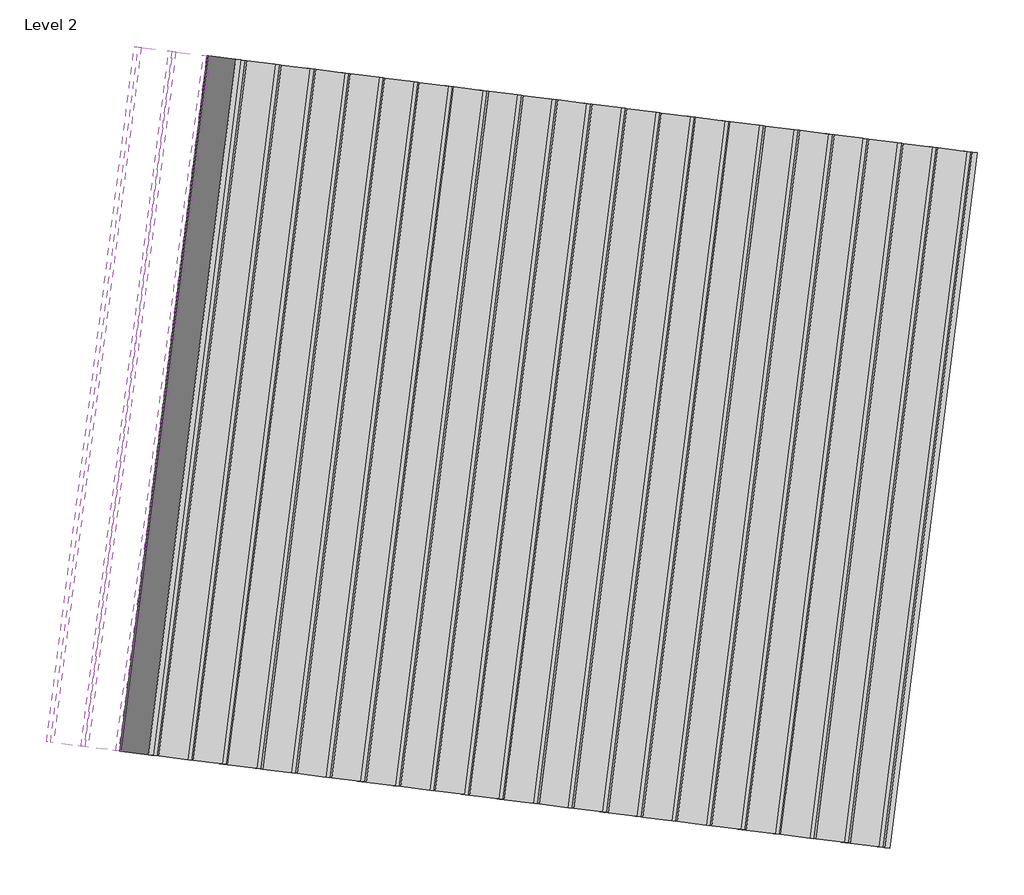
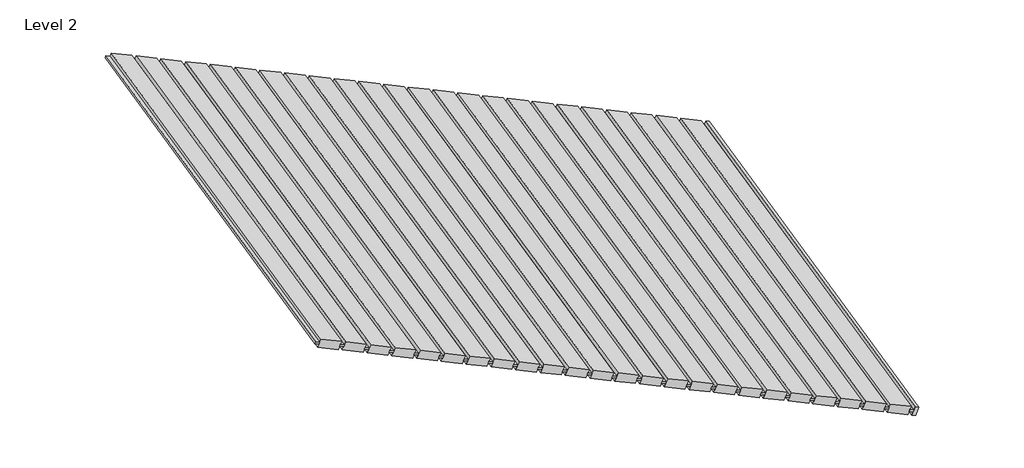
# One storey: 25 members, 25 plates.
"""IFC4 building model written with IfcOpenShell, lengths in millimetres."""

from ifc_helpers import new_model, si_unit, origin, place, context, project, spatial, transform, mapped, element, save
from components import montante_retangular_ed2668eb, painel_do_sistema_vazio_vazio_38e21958, painel_do_sistema_vazio_vazio_c075b244

model = new_model("IFC4")

# Units and contexts
model_context = context("Model", 3, world=origin())
ifc_project = project(units=[si_unit("LENGTHUNIT", "METRE", prefix="MILLI")], contexts=[model_context])

# Site, building, storey
site = spatial("IfcSite", under=ifc_project)
building = spatial("IfcBuilding", under=site)
storey = spatial("IfcBuildingStorey", under=building, Name="Level 2", Elevation=4000.0)

# Members
placement = place(None, origin())
montante_retangular_shape = montante_retangular_ed2668eb(model_context)
element("IfcMember", 1, ObjectType="Montante retangular : ripa", at=placement, inside=storey, context=model_context, shape_type="MappedRepresentation", body=[
    mapped(montante_retangular_shape, transform((41026.9580933, -12696.5400604, 5341.4546446), x_axis=(-0.9211792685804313, 0.11617969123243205, 0.3713906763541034), y_axis=(-0.36847170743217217, 0.04647187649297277, -0.9284766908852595), z_axis=(-0.1251293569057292, -0.9921404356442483, 0.0))),
])
element("IfcMember", 2, ObjectType="Montante retangular : ripa", at=placement, inside=storey, context=model_context, shape_type="MappedRepresentation", body=[
    mapped(montante_retangular_shape, transform((41579.6656545, -12766.2478751, 5118.6202388), x_axis=(-0.9211792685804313, 0.11617969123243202, 0.3713906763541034), y_axis=(-0.36847170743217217, 0.04647187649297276, -0.9284766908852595), z_axis=(-0.12512935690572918, -0.9921404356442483, 0.0))),
])
element("IfcMember", 3, ObjectType="Montante retangular : ripa", at=placement, inside=storey, context=model_context, shape_type="MappedRepresentation", body=[
    mapped(montante_retangular_shape, transform((42132.3732156, -12835.9556898, 4895.785833), x_axis=(-0.9211792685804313, 0.11617969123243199, 0.3713906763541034), y_axis=(-0.36847170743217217, 0.04647187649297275, -0.9284766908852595), z_axis=(-0.12512935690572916, -0.9921404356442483, 0.0))),
])
element("IfcMember", 4, ObjectType="Montante retangular : ripa", at=placement, inside=storey, context=model_context, shape_type="MappedRepresentation", body=[
    mapped(montante_retangular_shape, transform((42685.0807768, -12905.6635046, 4672.9514272), x_axis=(-0.9211792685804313, 0.11617969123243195, 0.3713906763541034), y_axis=(-0.36847170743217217, 0.04647187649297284, -0.9284766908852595), z_axis=(-0.12512935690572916, -0.9921404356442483, 0.0))),
])
element("IfcMember", 5, ObjectType="Montante retangular : ripa", at=placement, inside=storey, context=model_context, shape_type="MappedRepresentation", body=[
    mapped(montante_retangular_shape, transform((43237.7883379, -12975.3713193, 4450.1170214), x_axis=(-0.9211792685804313, 0.11617969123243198, 0.3713906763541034), y_axis=(-0.36847170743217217, 0.04647187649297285, -0.9284766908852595), z_axis=(-0.12512935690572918, -0.9921404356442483, 0.0))),
])
element("IfcMember", 6, ObjectType="Montante retangular : ripa", at=placement, inside=storey, context=model_context, shape_type="MappedRepresentation", body=[
    mapped(montante_retangular_shape, transform((43790.4958991, -13045.0791341, 4227.2826156), x_axis=(-0.9211792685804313, 0.11617969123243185, 0.3713906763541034), y_axis=(-0.3684717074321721, 0.046471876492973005, -0.9284766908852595), z_axis=(-0.12512935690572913, -0.9921404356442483, 0.0))),
])
element("IfcMember", 7, ObjectType="Montante retangular : ripa", at=placement, inside=storey, context=model_context, shape_type="MappedRepresentation", body=[
    mapped(montante_retangular_shape, transform((44343.2034602, -13114.7869488, 4004.4482098), x_axis=(-0.9211792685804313, 0.11617969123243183, 0.3713906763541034), y_axis=(-0.3684717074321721, 0.046471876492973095, -0.9284766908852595), z_axis=(-0.12512935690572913, -0.9921404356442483, 0.0))),
])
element("IfcMember", 8, ObjectType="Montante retangular : ripa", at=placement, inside=storey, context=model_context, shape_type="MappedRepresentation", body=[
    mapped(montante_retangular_shape, transform((44895.9110214, -13184.4947635, 3781.6138039), x_axis=(-0.9211792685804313, 0.11617969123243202, 0.3713906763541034), y_axis=(-0.36847170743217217, 0.04647187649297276, -0.9284766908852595), z_axis=(-0.12512935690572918, -0.9921404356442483, 0.0))),
])
element("IfcMember", 9, ObjectType="Montante retangular : ripa", at=placement, inside=storey, context=model_context, shape_type="MappedRepresentation", body=[
    mapped(montante_retangular_shape, transform((45448.6185825, -13254.2025783, 3558.7793981), x_axis=(-0.9211792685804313, 0.1161796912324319, 0.3713906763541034), y_axis=(-0.36847170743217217, 0.04647187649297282, -0.9284766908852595), z_axis=(-0.1251293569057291, -0.9921404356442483, 0.0))),
])
element("IfcMember", 10, ObjectType="Montante retangular : ripa", at=placement, inside=storey, context=model_context, shape_type="MappedRepresentation", body=[
    mapped(montante_retangular_shape, transform((46001.3261437, -13323.910393, 3335.9449923), x_axis=(-0.9211792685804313, 0.1161796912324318, 0.3713906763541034), y_axis=(-0.3684717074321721, 0.04647187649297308, -0.9284766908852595), z_axis=(-0.1251293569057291, -0.9921404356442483, 0.0))),
])
element("IfcMember", 11, ObjectType="Montante retangular : ripa", at=placement, inside=storey, context=model_context, shape_type="MappedRepresentation", body=[
    mapped(montante_retangular_shape, transform((46554.0337048, -13393.6182078, 3113.1105865), x_axis=(-0.9211792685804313, 0.11617969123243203, 0.3713906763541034), y_axis=(-0.36847170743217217, 0.04647187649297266, -0.9284766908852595), z_axis=(-0.12512935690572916, -0.9921404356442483, 0.0))),
])
element("IfcMember", 12, ObjectType="Montante retangular : ripa", at=placement, inside=storey, context=model_context, shape_type="MappedRepresentation", body=[
    mapped(montante_retangular_shape, transform((47106.741266, -13463.3260225, 2890.2761807), x_axis=(-0.9211792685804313, 0.11617969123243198, 0.3713906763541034), y_axis=(-0.36847170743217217, 0.04647187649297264, -0.9284766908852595), z_axis=(-0.1251293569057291, -0.9921404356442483, 0.0))),
])
element("IfcMember", 13, ObjectType="Montante retangular : ripa", at=placement, inside=storey, context=model_context, shape_type="MappedRepresentation", body=[
    mapped(montante_retangular_shape, transform((47383.0950465, -13498.1799299, 2778.8589778), x_axis=(-0.9211792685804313, 0.11617969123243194, 0.3713906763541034), y_axis=(-0.36847170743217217, 0.04647187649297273, -0.9284766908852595), z_axis=(-0.1251293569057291, -0.9921404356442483, 0.0))),
])
element("IfcMember", 14, ObjectType="Montante retangular : ripa", at=placement, inside=storey, context=model_context, shape_type="MappedRepresentation", body=[
    mapped(montante_retangular_shape, transform((46830.3874854, -13428.4721151, 3001.6933836), x_axis=(-0.9211792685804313, 0.11617969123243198, 0.3713906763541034), y_axis=(-0.36847170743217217, 0.04647187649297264, -0.9284766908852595), z_axis=(-0.1251293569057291, -0.9921404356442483, 0.0))),
])
element("IfcMember", 15, ObjectType="Montante retangular : ripa", at=placement, inside=storey, context=model_context, shape_type="MappedRepresentation", body=[
    mapped(montante_retangular_shape, transform((46277.6799242, -13358.7643004, 3224.5277894), x_axis=(-0.9211792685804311, 0.11617969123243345, 0.37139067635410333), y_axis=(-0.36847170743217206, 0.04647187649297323, -0.9284766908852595), z_axis=(-0.12512935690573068, -0.992140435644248, 0.0))),
])
element("IfcMember", 16, ObjectType="Montante retangular : ripa", at=placement, inside=storey, context=model_context, shape_type="MappedRepresentation", body=[
    mapped(montante_retangular_shape, transform((45724.9723631, -13289.0564857, 3447.3621952), x_axis=(-0.9211792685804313, 0.11617969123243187, 0.3713906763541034), y_axis=(-0.36847170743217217, 0.04647187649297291, -0.9284766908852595), z_axis=(-0.1251293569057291, -0.9921404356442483, 0.0))),
])
element("IfcMember", 17, ObjectType="Montante retangular : ripa", at=placement, inside=storey, context=model_context, shape_type="MappedRepresentation", body=[
    mapped(montante_retangular_shape, transform((45172.2648019, -13219.3486709, 3670.196601), x_axis=(-0.9211792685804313, 0.11617969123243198, 0.3713906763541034), y_axis=(-0.36847170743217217, 0.04647187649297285, -0.9284766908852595), z_axis=(-0.12512935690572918, -0.9921404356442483, 0.0))),
])
element("IfcMember", 18, ObjectType="Montante retangular : ripa", at=placement, inside=storey, context=model_context, shape_type="MappedRepresentation", body=[
    mapped(montante_retangular_shape, transform((44619.5572408, -13149.6408562, 3893.0310069), x_axis=(-0.9211792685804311, 0.11617969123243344, 0.37139067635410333), y_axis=(-0.36847170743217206, 0.046471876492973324, -0.9284766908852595), z_axis=(-0.1251293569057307, -0.992140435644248, 0.0))),
])
element("IfcMember", 19, ObjectType="Montante retangular : ripa", at=placement, inside=storey, context=model_context, shape_type="MappedRepresentation", body=[
    mapped(montante_retangular_shape, transform((44066.8496796, -13079.9330414, 4115.8654127), x_axis=(-0.9211792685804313, 0.11617969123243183, 0.3713906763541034), y_axis=(-0.3684717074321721, 0.046471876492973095, -0.9284766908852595), z_axis=(-0.12512935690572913, -0.9921404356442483, 0.0))),
])
element("IfcMember", 20, ObjectType="Montante retangular : ripa", at=placement, inside=storey, context=model_context, shape_type="MappedRepresentation", body=[
    mapped(montante_retangular_shape, transform((43514.1421185, -13010.2252267, 4338.6998185), x_axis=(-0.9211792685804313, 0.11617969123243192, 0.3713906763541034), y_axis=(-0.36847170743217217, 0.04647187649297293, -0.9284766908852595), z_axis=(-0.12512935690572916, -0.9921404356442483, 0.0))),
])
element("IfcMember", 21, ObjectType="Montante retangular : ripa", at=placement, inside=storey, context=model_context, shape_type="MappedRepresentation", body=[
    mapped(montante_retangular_shape, transform((42961.4345573, -12940.517412, 4561.5342243), x_axis=(-0.9211792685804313, 0.11617969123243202, 0.3713906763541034), y_axis=(-0.36847170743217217, 0.04647187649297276, -0.9284766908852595), z_axis=(-0.12512935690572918, -0.9921404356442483, 0.0))),
])
element("IfcMember", 22, ObjectType="Montante retangular : ripa", at=placement, inside=storey, context=model_context, shape_type="MappedRepresentation", body=[
    mapped(montante_retangular_shape, transform((42408.7269962, -12870.8095972, 4784.3686301), x_axis=(-0.9211792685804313, 0.11617969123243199, 0.3713906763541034), y_axis=(-0.36847170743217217, 0.04647187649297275, -0.9284766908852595), z_axis=(-0.12512935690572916, -0.9921404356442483, 0.0))),
])
element("IfcMember", 23, ObjectType="Montante retangular : ripa", at=placement, inside=storey, context=model_context, shape_type="MappedRepresentation", body=[
    mapped(montante_retangular_shape, transform((41856.0194351, -12801.1017825, 5007.2030359), x_axis=(-0.9211792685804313, 0.11617969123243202, 0.3713906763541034), y_axis=(-0.36847170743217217, 0.04647187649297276, -0.9284766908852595), z_axis=(-0.12512935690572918, -0.9921404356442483, 0.0))),
])
element("IfcMember", 24, ObjectType="Montante retangular : ripa", at=placement, inside=storey, context=model_context, shape_type="MappedRepresentation", body=[
    mapped(montante_retangular_shape, transform((41303.3118739, -12731.3939677, 5230.0374417), x_axis=(-0.9211792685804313, 0.11617969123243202, 0.3713906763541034), y_axis=(-0.36847170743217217, 0.04647187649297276, -0.9284766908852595), z_axis=(-0.12512935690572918, -0.9921404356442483, 0.0))),
])
element("IfcMember", 25, ObjectType="Montante retangular : ripa", at=placement, inside=storey, context=model_context, shape_type="MappedRepresentation", body=[
    mapped(montante_retangular_shape, transform((40750.6043128, -12661.686153, 5452.8718475), x_axis=(-0.9211792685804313, 0.11617969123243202, 0.3713906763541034), y_axis=(-0.36847170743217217, 0.04647187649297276, -0.9284766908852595), z_axis=(-0.12512935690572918, -0.9921404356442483, 0.0))),
])

# Plates
painel_do_sistema_vazio_vazio_shape = painel_do_sistema_vazio_vazio_38e21958(model_context)
element("IfcPlate", 26, ObjectType="Painel do sistema vazio : Vazio", at=placement, inside=storey, context=model_context, shape_type="MappedRepresentation", body=[
    mapped(painel_do_sistema_vazio_vazio_shape, transform((47774.5024893, -10721.5836544, 2762.5), x_axis=(0.12512935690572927, 0.9921404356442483, 0.0), y_axis=(-0.3684717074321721, 0.04647187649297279, -0.9284766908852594), z_axis=(-0.9211792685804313, 0.11617969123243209, 0.3713906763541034))),
])
painel_do_sistema_vazio_vazio_2_shape = painel_do_sistema_vazio_vazio_c075b244(model_context)
element("IfcPlate", 27, ObjectType="Painel do sistema vazio : Vazio", at=placement, inside=storey, context=model_context, shape_type="MappedRepresentation", body=[
    mapped(painel_do_sistema_vazio_vazio_2_shape, transform((47687.8675175, -10710.6571989, 2797.4285116), x_axis=(0.12512935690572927, 0.9921404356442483, 0.0), y_axis=(-0.3684717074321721, 0.04647187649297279, -0.9284766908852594), z_axis=(-0.9211792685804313, 0.11617969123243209, 0.3713906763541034))),
])
element("IfcPlate", 28, ObjectType="Painel do sistema vazio : Vazio", at=placement, inside=storey, context=model_context, shape_type="MappedRepresentation", body=[
    mapped(painel_do_sistema_vazio_vazio_2_shape, transform((47411.513737, -10675.8032915, 2908.8457145), x_axis=(0.12512935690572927, 0.9921404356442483, 0.0), y_axis=(-0.3684717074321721, 0.04647187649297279, -0.9284766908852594), z_axis=(-0.9211792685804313, 0.11617969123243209, 0.3713906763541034))),
])
element("IfcPlate", 29, ObjectType="Painel do sistema vazio : Vazio", at=placement, inside=storey, context=model_context, shape_type="MappedRepresentation", body=[
    mapped(painel_do_sistema_vazio_vazio_2_shape, transform((47135.1599564, -10640.9493841, 3020.2629174), x_axis=(0.12512935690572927, 0.9921404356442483, 0.0), y_axis=(-0.3684717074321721, 0.04647187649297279, -0.9284766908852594), z_axis=(-0.9211792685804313, 0.11617969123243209, 0.3713906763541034))),
])
element("IfcPlate", 30, ObjectType="Painel do sistema vazio : Vazio", at=placement, inside=storey, context=model_context, shape_type="MappedRepresentation", body=[
    mapped(painel_do_sistema_vazio_vazio_2_shape, transform((46858.8061758, -10606.0954768, 3131.6801203), x_axis=(0.12512935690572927, 0.9921404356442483, 0.0), y_axis=(-0.3684717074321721, 0.04647187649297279, -0.9284766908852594), z_axis=(-0.9211792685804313, 0.11617969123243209, 0.3713906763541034))),
])
element("IfcPlate", 31, ObjectType="Painel do sistema vazio : Vazio", at=placement, inside=storey, context=model_context, shape_type="MappedRepresentation", body=[
    mapped(painel_do_sistema_vazio_vazio_2_shape, transform((46582.4523952, -10571.2415694, 3243.0973232), x_axis=(0.12512935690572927, 0.9921404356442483, 0.0), y_axis=(-0.3684717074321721, 0.04647187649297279, -0.9284766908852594), z_axis=(-0.9211792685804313, 0.11617969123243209, 0.3713906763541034))),
])
element("IfcPlate", 32, ObjectType="Painel do sistema vazio : Vazio", at=placement, inside=storey, context=model_context, shape_type="MappedRepresentation", body=[
    mapped(painel_do_sistema_vazio_vazio_2_shape, transform((46306.0986147, -10536.387662, 3354.5145261), x_axis=(0.12512935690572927, 0.9921404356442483, 0.0), y_axis=(-0.3684717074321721, 0.04647187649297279, -0.9284766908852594), z_axis=(-0.9211792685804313, 0.11617969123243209, 0.3713906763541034))),
])
element("IfcPlate", 33, ObjectType="Painel do sistema vazio : Vazio", at=placement, inside=storey, context=model_context, shape_type="MappedRepresentation", body=[
    mapped(painel_do_sistema_vazio_vazio_2_shape, transform((46029.7448341, -10501.5337547, 3465.931729), x_axis=(0.12512935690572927, 0.9921404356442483, 0.0), y_axis=(-0.3684717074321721, 0.04647187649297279, -0.9284766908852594), z_axis=(-0.9211792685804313, 0.11617969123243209, 0.3713906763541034))),
])
element("IfcPlate", 34, ObjectType="Painel do sistema vazio : Vazio", at=placement, inside=storey, context=model_context, shape_type="MappedRepresentation", body=[
    mapped(painel_do_sistema_vazio_vazio_2_shape, transform((45753.3910535, -10466.6798473, 3577.348932), x_axis=(0.12512935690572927, 0.9921404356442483, 0.0), y_axis=(-0.3684717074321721, 0.04647187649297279, -0.9284766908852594), z_axis=(-0.9211792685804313, 0.11617969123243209, 0.3713906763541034))),
])
element("IfcPlate", 35, ObjectType="Painel do sistema vazio : Vazio", at=placement, inside=storey, context=model_context, shape_type="MappedRepresentation", body=[
    mapped(painel_do_sistema_vazio_vazio_2_shape, transform((45477.0372729, -10431.8259399, 3688.7661349), x_axis=(0.12512935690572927, 0.9921404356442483, 0.0), y_axis=(-0.3684717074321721, 0.04647187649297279, -0.9284766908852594), z_axis=(-0.9211792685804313, 0.11617969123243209, 0.3713906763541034))),
])
element("IfcPlate", 36, ObjectType="Painel do sistema vazio : Vazio", at=placement, inside=storey, context=model_context, shape_type="MappedRepresentation", body=[
    mapped(painel_do_sistema_vazio_vazio_2_shape, transform((45200.6834924, -10396.9720325, 3800.1833378), x_axis=(0.12512935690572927, 0.9921404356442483, 0.0), y_axis=(-0.3684717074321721, 0.04647187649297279, -0.9284766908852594), z_axis=(-0.9211792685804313, 0.11617969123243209, 0.3713906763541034))),
])
element("IfcPlate", 37, ObjectType="Painel do sistema vazio : Vazio", at=placement, inside=storey, context=model_context, shape_type="MappedRepresentation", body=[
    mapped(painel_do_sistema_vazio_vazio_2_shape, transform((44924.3297118, -10362.1181252, 3911.6005407), x_axis=(0.12512935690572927, 0.9921404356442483, 0.0), y_axis=(-0.3684717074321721, 0.04647187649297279, -0.9284766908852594), z_axis=(-0.9211792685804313, 0.11617969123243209, 0.3713906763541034))),
])
element("IfcPlate", 38, ObjectType="Painel do sistema vazio : Vazio", at=placement, inside=storey, context=model_context, shape_type="MappedRepresentation", body=[
    mapped(painel_do_sistema_vazio_vazio_2_shape, transform((44647.9759312, -10327.2642178, 4023.0177436), x_axis=(0.12512935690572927, 0.9921404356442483, 0.0), y_axis=(-0.3684717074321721, 0.04647187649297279, -0.9284766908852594), z_axis=(-0.9211792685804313, 0.11617969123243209, 0.3713906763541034))),
])
element("IfcPlate", 39, ObjectType="Painel do sistema vazio : Vazio", at=placement, inside=storey, context=model_context, shape_type="MappedRepresentation", body=[
    mapped(painel_do_sistema_vazio_vazio_2_shape, transform((44371.6221506, -10292.4103104, 4134.4349465), x_axis=(0.12512935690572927, 0.9921404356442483, 0.0), y_axis=(-0.3684717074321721, 0.04647187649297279, -0.9284766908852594), z_axis=(-0.9211792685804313, 0.11617969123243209, 0.3713906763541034))),
])
element("IfcPlate", 40, ObjectType="Painel do sistema vazio : Vazio", at=placement, inside=storey, context=model_context, shape_type="MappedRepresentation", body=[
    mapped(painel_do_sistema_vazio_vazio_2_shape, transform((44095.2683701, -10257.5564031, 4245.8521494), x_axis=(0.12512935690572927, 0.9921404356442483, 0.0), y_axis=(-0.3684717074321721, 0.04647187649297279, -0.9284766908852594), z_axis=(-0.9211792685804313, 0.11617969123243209, 0.3713906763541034))),
])
element("IfcPlate", 41, ObjectType="Painel do sistema vazio : Vazio", at=placement, inside=storey, context=model_context, shape_type="MappedRepresentation", body=[
    mapped(painel_do_sistema_vazio_vazio_2_shape, transform((43818.9145895, -10222.7024957, 4357.2693523), x_axis=(0.12512935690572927, 0.9921404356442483, 0.0), y_axis=(-0.3684717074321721, 0.04647187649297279, -0.9284766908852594), z_axis=(-0.9211792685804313, 0.11617969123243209, 0.3713906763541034))),
])
element("IfcPlate", 42, ObjectType="Painel do sistema vazio : Vazio", at=placement, inside=storey, context=model_context, shape_type="MappedRepresentation", body=[
    mapped(painel_do_sistema_vazio_vazio_2_shape, transform((43542.5608089, -10187.8485883, 4468.6865552), x_axis=(0.12512935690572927, 0.9921404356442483, 0.0), y_axis=(-0.3684717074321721, 0.04647187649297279, -0.9284766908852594), z_axis=(-0.9211792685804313, 0.11617969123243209, 0.3713906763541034))),
])
element("IfcPlate", 43, ObjectType="Painel do sistema vazio : Vazio", at=placement, inside=storey, context=model_context, shape_type="MappedRepresentation", body=[
    mapped(painel_do_sistema_vazio_vazio_2_shape, transform((43266.2070283, -10152.994681, 4580.1037581), x_axis=(0.12512935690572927, 0.9921404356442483, 0.0), y_axis=(-0.3684717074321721, 0.04647187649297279, -0.9284766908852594), z_axis=(-0.9211792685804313, 0.11617969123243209, 0.3713906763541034))),
])
element("IfcPlate", 44, ObjectType="Painel do sistema vazio : Vazio", at=placement, inside=storey, context=model_context, shape_type="MappedRepresentation", body=[
    mapped(painel_do_sistema_vazio_vazio_2_shape, transform((42989.8532478, -10118.1407736, 4691.520961), x_axis=(0.12512935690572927, 0.9921404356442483, 0.0), y_axis=(-0.3684717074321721, 0.04647187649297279, -0.9284766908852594), z_axis=(-0.9211792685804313, 0.11617969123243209, 0.3713906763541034))),
])
element("IfcPlate", 45, ObjectType="Painel do sistema vazio : Vazio", at=placement, inside=storey, context=model_context, shape_type="MappedRepresentation", body=[
    mapped(painel_do_sistema_vazio_vazio_2_shape, transform((42713.4994672, -10083.2868662, 4802.9381639), x_axis=(0.12512935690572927, 0.9921404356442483, 0.0), y_axis=(-0.3684717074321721, 0.04647187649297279, -0.9284766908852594), z_axis=(-0.9211792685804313, 0.11617969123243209, 0.3713906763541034))),
])
element("IfcPlate", 46, ObjectType="Painel do sistema vazio : Vazio", at=placement, inside=storey, context=model_context, shape_type="MappedRepresentation", body=[
    mapped(painel_do_sistema_vazio_vazio_2_shape, transform((42437.1456866, -10048.4329588, 4914.3553668), x_axis=(0.12512935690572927, 0.9921404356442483, 0.0), y_axis=(-0.3684717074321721, 0.04647187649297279, -0.9284766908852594), z_axis=(-0.9211792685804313, 0.11617969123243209, 0.3713906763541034))),
])
element("IfcPlate", 47, ObjectType="Painel do sistema vazio : Vazio", at=placement, inside=storey, context=model_context, shape_type="MappedRepresentation", body=[
    mapped(painel_do_sistema_vazio_vazio_2_shape, transform((42160.791906, -10013.5790515, 5025.7725697), x_axis=(0.12512935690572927, 0.9921404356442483, 0.0), y_axis=(-0.3684717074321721, 0.04647187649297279, -0.9284766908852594), z_axis=(-0.9211792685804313, 0.11617969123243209, 0.3713906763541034))),
])
element("IfcPlate", 48, ObjectType="Painel do sistema vazio : Vazio", at=placement, inside=storey, context=model_context, shape_type="MappedRepresentation", body=[
    mapped(painel_do_sistema_vazio_vazio_2_shape, transform((41884.4381255, -9978.7251441, 5137.1897726), x_axis=(0.12512935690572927, 0.9921404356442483, 0.0), y_axis=(-0.3684717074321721, 0.04647187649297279, -0.9284766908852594), z_axis=(-0.9211792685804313, 0.11617969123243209, 0.3713906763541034))),
])
element("IfcPlate", 49, ObjectType="Painel do sistema vazio : Vazio", at=placement, inside=storey, context=model_context, shape_type="MappedRepresentation", body=[
    mapped(painel_do_sistema_vazio_vazio_2_shape, transform((41608.0843449, -9943.8712367, 5248.6069755), x_axis=(0.12512935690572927, 0.9921404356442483, 0.0), y_axis=(-0.3684717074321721, 0.04647187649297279, -0.9284766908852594), z_axis=(-0.9211792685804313, 0.11617969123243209, 0.3713906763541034))),
])
element("IfcPlate", 50, ObjectType="Painel do sistema vazio : Vazio", at=placement, inside=storey, context=model_context, shape_type="MappedRepresentation", body=[
    mapped(painel_do_sistema_vazio_vazio_2_shape, transform((41331.7305643, -9909.0173294, 5360.0241785), x_axis=(0.12512935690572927, 0.9921404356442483, 0.0), y_axis=(-0.3684717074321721, 0.04647187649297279, -0.9284766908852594), z_axis=(-0.9211792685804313, 0.11617969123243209, 0.3713906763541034))),
])

save(model, "model.ifc")
